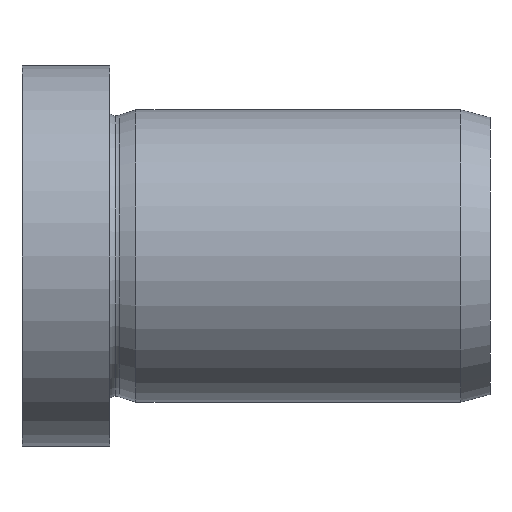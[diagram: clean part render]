
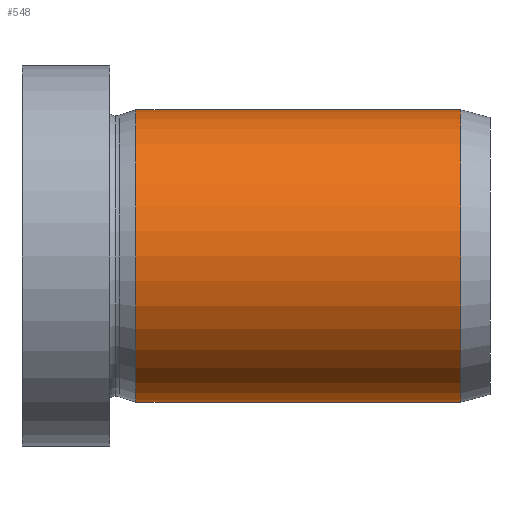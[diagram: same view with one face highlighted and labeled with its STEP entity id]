
A CAD part, left-side view. The second image highlights one B-rep face of the part: STEP entity #548.
In plain terms, the highlighted cylindrical face has radius 5 mm (diameter 10 mm), a partial arc.
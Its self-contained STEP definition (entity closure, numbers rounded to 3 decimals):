
#4 = CARTESIAN_POINT ( 'NONE',  ( 0., 12.104, 5. ) ) ;
#28 = LINE ( 'NONE', #513, #351 ) ;
#33 = EDGE_CURVE ( 'NONE', #482, #423, #573, .T. ) ;
#94 = CIRCLE ( 'NONE', #461, 5. ) ;
#125 = DIRECTION ( 'NONE',  ( 0., -1., 0. ) ) ;
#138 = AXIS2_PLACEMENT_3D ( 'NONE', #299, #292, #250 ) ;
#193 = ORIENTED_EDGE ( 'NONE', *, *, #655, .F. ) ;
#203 = FACE_OUTER_BOUND ( 'NONE', #528, .T. ) ;
#250 = DIRECTION ( 'NONE',  ( 0., 0., -1. ) ) ;
#252 = VERTEX_POINT ( 'NONE', #318 ) ;
#261 = LINE ( 'NONE', #572, #562 ) ;
#284 = VERTEX_POINT ( 'NONE', #584 ) ;
#292 = DIRECTION ( 'NONE',  ( 0., -1., 0. ) ) ;
#298 = CARTESIAN_POINT ( 'NONE',  ( 0., 12.104, -5. ) ) ;
#299 = CARTESIAN_POINT ( 'NONE',  ( 0., 12.104, 0. ) ) ;
#305 = DIRECTION ( 'NONE',  ( 0., -1., 0. ) ) ;
#308 = DIRECTION ( 'NONE',  ( 0., -1., 0. ) ) ;
#318 = CARTESIAN_POINT ( 'NONE',  ( 0., 1., -5. ) ) ;
#351 = VECTOR ( 'NONE', #125, 1000. ) ;
#363 = ORIENTED_EDGE ( 'NONE', *, *, #642, .T. ) ;
#371 = CARTESIAN_POINT ( 'NONE',  ( 0., 0., 0. ) ) ;
#396 = CYLINDRICAL_SURFACE ( 'NONE', #553, 5. ) ;
#412 = CARTESIAN_POINT ( 'NONE',  ( 0., 1., 0. ) ) ;
#423 = VERTEX_POINT ( 'NONE', #298 ) ;
#461 = AXIS2_PLACEMENT_3D ( 'NONE', #412, #475, #469 ) ;
#466 = DIRECTION ( 'NONE',  ( 0., 0., -1. ) ) ;
#469 = DIRECTION ( 'NONE',  ( 0., 0., -1. ) ) ;
#475 = DIRECTION ( 'NONE',  ( 0., -1., 0. ) ) ;
#482 = VERTEX_POINT ( 'NONE', #4 ) ;
#513 = CARTESIAN_POINT ( 'NONE',  ( 0., 0., 5. ) ) ;
#528 = EDGE_LOOP ( 'NONE', ( #193, #565, #363, #549 ) ) ;
#548 = ADVANCED_FACE ( 'NONE', ( #203 ), #396, .T. ) ;
#549 = ORIENTED_EDGE ( 'NONE', *, *, #619, .F. ) ;
#553 = AXIS2_PLACEMENT_3D ( 'NONE', #371, #308, #466 ) ;
#562 = VECTOR ( 'NONE', #305, 1000. ) ;
#565 = ORIENTED_EDGE ( 'NONE', *, *, #33, .T. ) ;
#572 = CARTESIAN_POINT ( 'NONE',  ( 0., 0., -5. ) ) ;
#573 = CIRCLE ( 'NONE', #138, 5. ) ;
#584 = CARTESIAN_POINT ( 'NONE',  ( 0., 1., 5. ) ) ;
#619 = EDGE_CURVE ( 'NONE', #284, #252, #94, .T. ) ;
#642 = EDGE_CURVE ( 'NONE', #423, #252, #261, .T. ) ;
#655 = EDGE_CURVE ( 'NONE', #482, #284, #28, .T. ) ;
